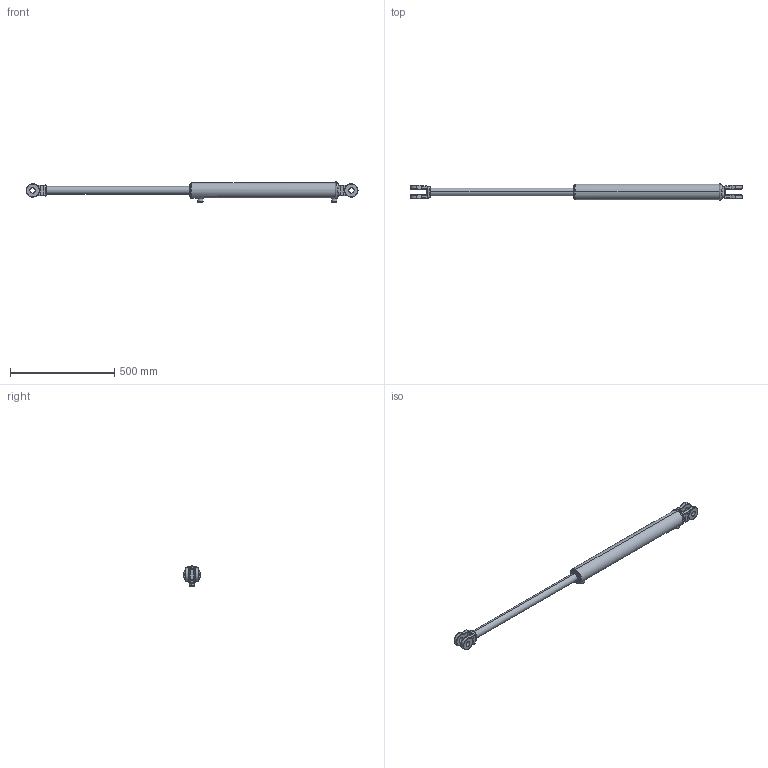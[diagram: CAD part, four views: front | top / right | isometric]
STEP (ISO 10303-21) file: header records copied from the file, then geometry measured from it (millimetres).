
FILE_DESCRIPTION (( 'STEP AP203' ), '1' );
FILE_NAME ('CL-CL250150x610 (24) extended.STEP', '2014-11-21T02:41:24', ( '' ), ( '' ), 'SwSTEP 2.0', 'SolidWorks 2014', '' );
FILE_SCHEMA (( 'CONFIG_CONTROL_DESIGN' ));
Length unit declared in the file: millimetre
Products named in the file (5): CL-CL250150x610 (24) body; 2.5 inch ext circlip; CL-CL250150x610 (24) BODY; SPARE 6_24-xx; CL-CL250150x610 (24) extended
Assembly tree (4 placements, depth 3):
  CL-CL250150x610 (24) extended
    CL-CL250150x610 (24) BODY
      CL-CL250150x610 (24) body
      2.5 inch ext circlip
    SPARE 6_24-xx
Bounding box: 1594.39 x 82.17 x 97.2 mm (x, y, z)
Volume: 4260073.4 mm3; surface area: 349640.4 mm2
Topology: 3 solids, 3 shells, 210 faces, 512 edges, 315 vertices
Faces by surface type: cylinder 91, bspline 59, plane 37, torus 15, cone 8
Entity records: 11387 total; most frequent: CARTESIAN_POINT 6222, ORIENTED_EDGE 1016, DIRECTION 943, EDGE_CURVE 508, AXIS2_PLACEMENT_3D 394, VERTEX_POINT 315, CIRCLE 235, EDGE_LOOP 233
